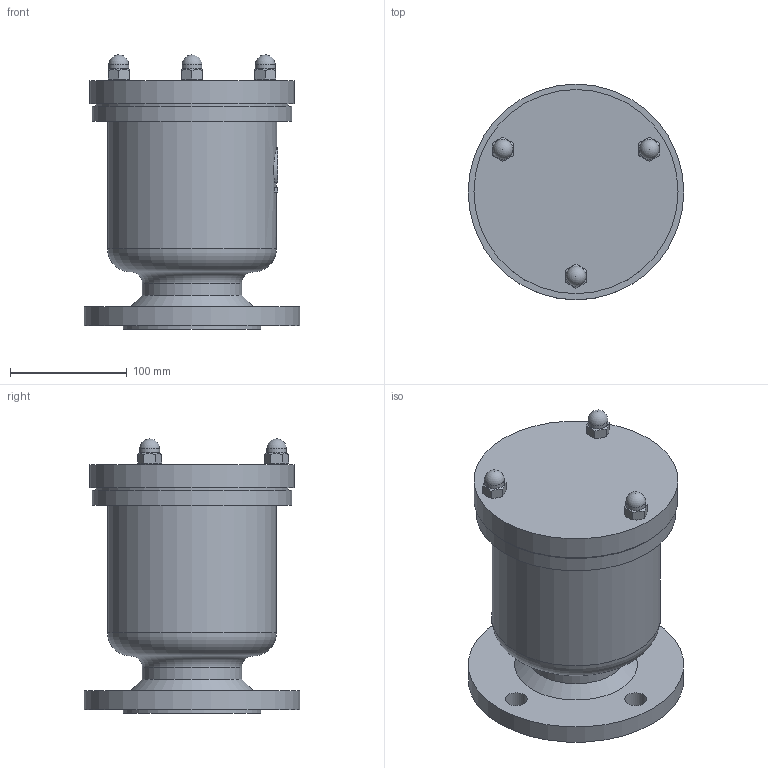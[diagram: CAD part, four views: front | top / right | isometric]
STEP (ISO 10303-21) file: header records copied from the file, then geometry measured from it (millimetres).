
FILE_DESCRIPTION(('STEP AP203'), '1');
FILE_NAME('A10F.Z DN65', '', ('UNSPECIFIED'), ('UNSPECIFIED'), 'ASCON STEP Converter 1.6', 'ASCON Math Kernel', '');
FILE_SCHEMA(('CONFIG_CONTROL_DESIGN'));
Length unit declared in the file: millimetre
Products named in the file (2): A10F.Z DN65
Assembly tree (3 placements, depth 2):
  A10F.Z DN65
    (unnamed)  x3
Bounding box: 185 x 185 x 235 mm (x, y, z)
Volume: 2948075.9 mm3; surface area: 228737.1 mm2
Topology: 1 solids, 4 shells, 85 faces, 185 edges, 118 vertices
Faces by surface type: plane 42, cylinder 25, cone 13, sphere 3, torus 2
Full cylindrical faces by diameter (mm): 10.106 x3, 17 x3, 19 x4, 65 x1, 85 x1, 118 x1, 145 x1, 165 x1, 171 x1, 175 x1, 185 x1
Entity records: 4924 total; most frequent: CARTESIAN_POINT 2452, DIRECTION 333, ORIENTED_EDGE 286, AXIS2_PLACEMENT_3D 146, EDGE_CURVE 143, EDGE_LOOP 138, VERTEX_POINT 111, COLOUR_RGB 87
